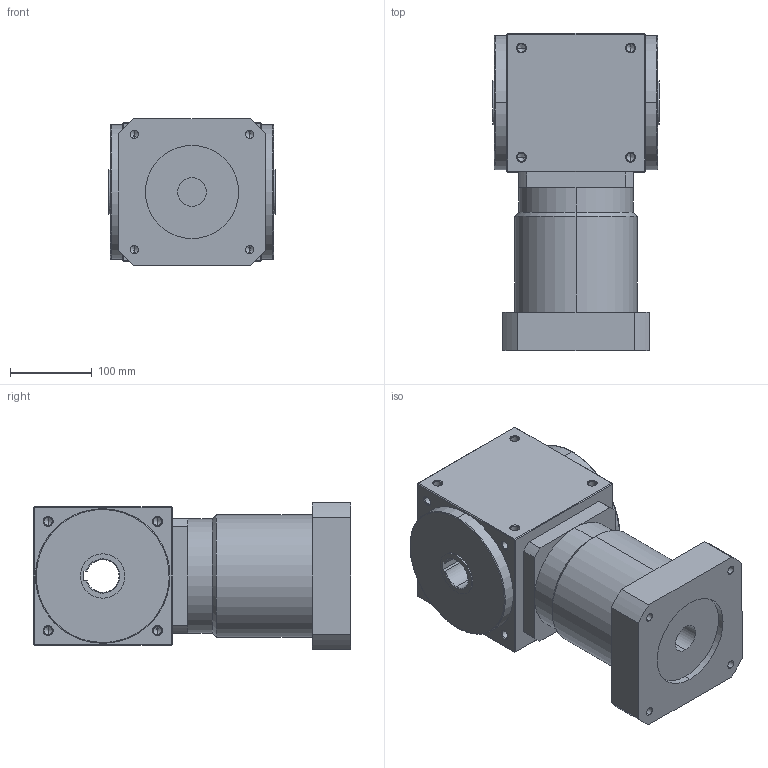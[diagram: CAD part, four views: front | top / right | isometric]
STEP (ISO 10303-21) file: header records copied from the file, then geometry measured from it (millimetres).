
FILE_DESCRIPTION (( 'STEP AP214' ), '1' );
FILE_NAME ('AT170-FH-L2--35-114.STEP', '2020-11-20T02:03:34', ( '微软用户' ), ( '微软中国' ), 'SwSTEP 2.0', 'SolidWorks 2014', '' );
FILE_SCHEMA (( 'AUTOMOTIVE_DESIGN' ));
Length unit declared in the file: millimetre
Products named in the file (2): AT170-FH-L2--35-114
Bounding box: 204 x 389 x 180 mm (x, y, z)
Volume: 9584324.1 mm3; surface area: 385399.4 mm2
Topology: 1 solids, 1 shells, 261 faces, 667 edges, 368 vertices
Faces by surface type: cylinder 115, cone 93, plane 49, bspline 4
Entity records: 10409 total; most frequent: CARTESIAN_POINT 1670, ORIENTED_EDGE 1238, DIRECTION 1225, EDGE_CURVE 619, AXIS2_PLACEMENT_3D 467, VERTEX_POINT 368, EDGE_LOOP 295, LINE 291
